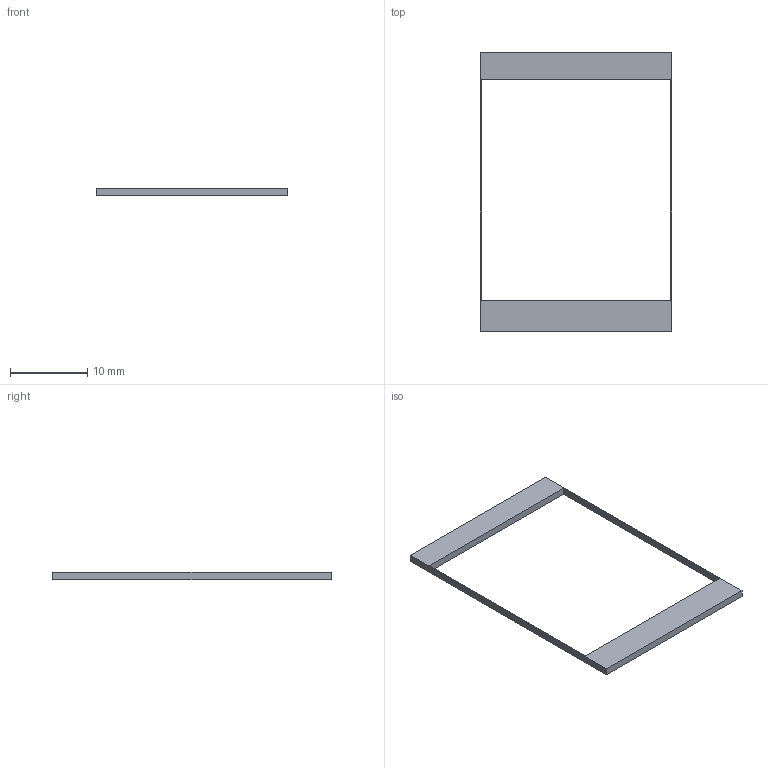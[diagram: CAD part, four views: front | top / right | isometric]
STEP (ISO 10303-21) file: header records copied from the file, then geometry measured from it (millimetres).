
FILE_DESCRIPTION(('Open CASCADE Model'),'2;1');
FILE_NAME('Open CASCADE Shape Model','2026-05-31T19:44:12',('Author'),( 'Open CASCADE'),'Open CASCADE STEP processor 7.6','Open CASCADE 7.6' ,'Unknown');
FILE_SCHEMA(('AP242_MANAGED_MODEL_BASED_3D_ENGINEERING_MIM_LF. {1 0 10303 442 1 1 4 }'));
Length unit declared in the file: millimetre
Products named in the file (1): Open CASCADE STEP translator 7.6 11
Bounding box: 24.85 x 36.1 x 0.95 mm (x, y, z)
Volume: 180.1 mm3; surface area: 596.4 mm2
Topology: 1 solids, 1 shells, 10 faces, 24 edges, 16 vertices
Faces by surface type: plane 10
Entity records: 614 total; most frequent: CARTESIAN_POINT 99, DIRECTION 94, LINE 72, VECTOR 72, ORIENTED_EDGE 48, PCURVE 48, DEFINITIONAL_REPRESENTATION 48, EDGE_CURVE 24
